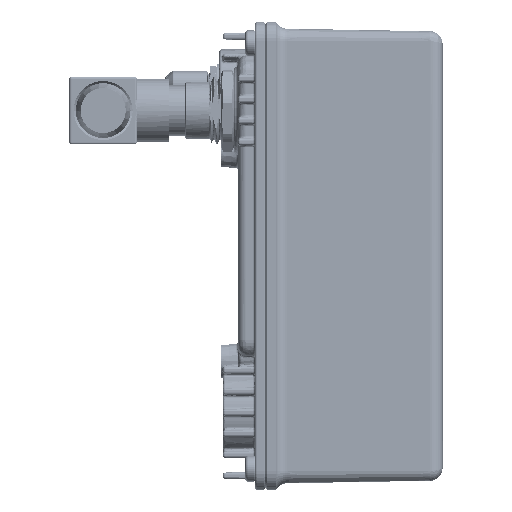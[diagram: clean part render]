
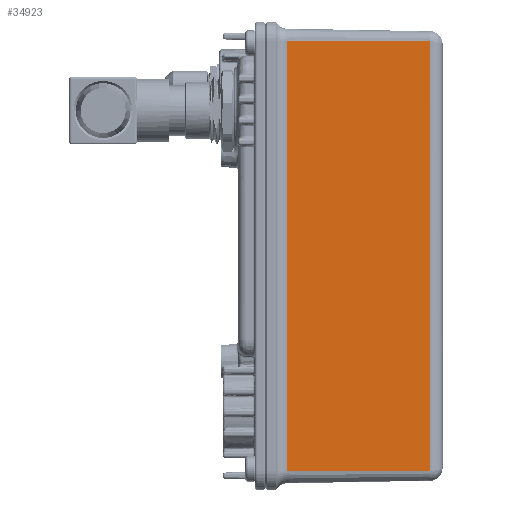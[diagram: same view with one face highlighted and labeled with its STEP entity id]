
A CAD part, front view. The second image highlights one B-rep face of the part: STEP entity #34923.
In plain terms, the highlighted planar face has unit normal (0.018, -1, 0).
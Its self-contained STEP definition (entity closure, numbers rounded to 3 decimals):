
#3850=FACE_OUTER_BOUND('',#5958,.T.);
#5958=EDGE_LOOP('',(#24342,#24343,#24344,#24345));
#7599=LINE('',#50056,#9141);
#8185=LINE('',#53096,#9727);
#8205=LINE('',#53500,#9747);
#8214=LINE('',#53520,#9756);
#9141=VECTOR('',#40495,10.);
#9727=VECTOR('',#43563,3.);
#9747=VECTOR('',#43707,10.);
#9756=VECTOR('',#43738,10.);
#12934=VERTEX_POINT('',#50005);
#12935=VERTEX_POINT('',#50055);
#13854=VERTEX_POINT('',#53083);
#13857=VERTEX_POINT('',#53094);
#16168=EDGE_CURVE('',#12934,#12935,#7599,.T.);
#17552=EDGE_CURVE('',#13857,#13854,#8185,.T.);
#17611=EDGE_CURVE('',#13854,#12934,#8205,.T.);
#17620=EDGE_CURVE('',#13857,#12935,#8214,.T.);
#24342=ORIENTED_EDGE('',*,*,#17552,.F.);
#24343=ORIENTED_EDGE('',*,*,#17620,.T.);
#24344=ORIENTED_EDGE('',*,*,#16168,.F.);
#24345=ORIENTED_EDGE('',*,*,#17611,.F.);
#32041=PLANE('',#37857);
#34923=ADVANCED_FACE('',(#3850),#32041,.T.);
#37857=AXIS2_PLACEMENT_3D('',#53519,#43736,#43737);
#40495=DIRECTION('',(0.,0.,-1.));
#43563=DIRECTION('',(0.,0.,1.));
#43707=DIRECTION('',(1.,0.017,0.));
#43736=DIRECTION('center_axis',(0.017,-1.,0.));
#43737=DIRECTION('ref_axis',(0.,0.,-1.));
#43738=DIRECTION('',(1.,0.017,0.));
#50005=CARTESIAN_POINT('',(16.552,-35.318,40.5));
#50055=CARTESIAN_POINT('',(16.552,-35.318,-61.5));
#50056=CARTESIAN_POINT('',(16.552,-35.318,-36.));
#53083=CARTESIAN_POINT('',(-17.405,-35.911,40.5));
#53094=CARTESIAN_POINT('',(-17.405,-35.911,-61.5));
#53096=CARTESIAN_POINT('',(-17.405,-35.911,40.5));
#53500=CARTESIAN_POINT('',(-22.5,-36.,40.5));
#53519=CARTESIAN_POINT('Origin',(-22.5,-36.,-61.5));
#53520=CARTESIAN_POINT('',(-22.5,-36.,-61.5));
